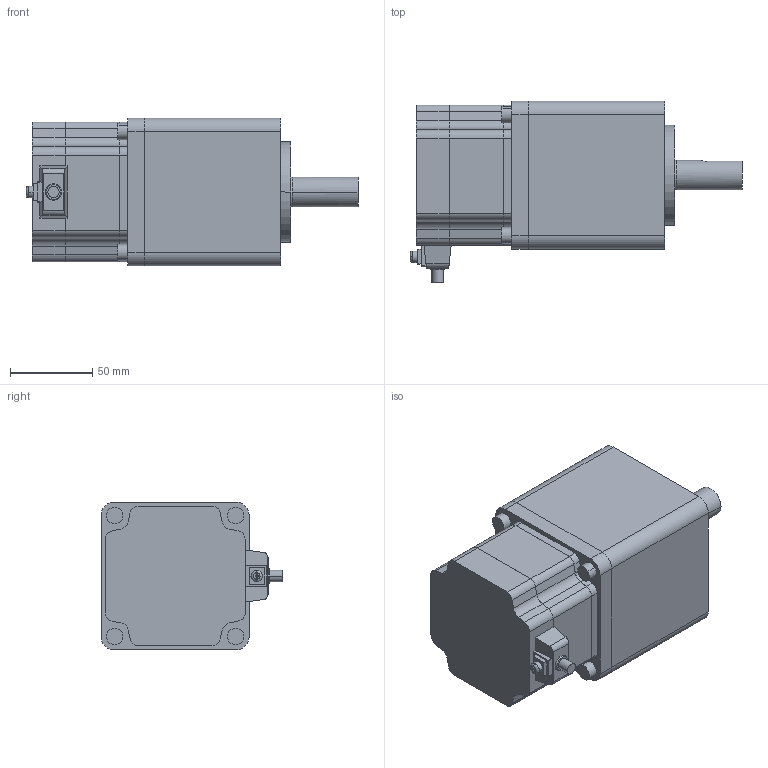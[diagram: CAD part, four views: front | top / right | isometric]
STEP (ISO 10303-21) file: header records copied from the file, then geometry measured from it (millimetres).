
FILE_DESCRIPTION( ( '' ), '1' );
FILE_NAME( 'c:/cad_url_generator/oriental/selction_from_product_tree/stepping_motors/5_phase_stepping_mu/5_phase_rk_series/pn_geared_type_asmtab/RK596ACE-N25.STEP', '2012-06-14T17:56:16', ( '' ), ( '' ), ' ', ' ', ' ' );
FILE_SCHEMA( ( 'CONFIG_CONTROL_DESIGN' ) );
Length unit declared in the file: millimetre
Products named in the file (2): 1; 2
Bounding box: 201.9 x 110.5 x 90 mm (x, y, z)
Volume: 1150801.6 mm3; surface area: 89611.1 mm2
Topology: 2 solids, 2 shells, 243 faces, 651 edges, 423 vertices
Faces by surface type: plane 118, cylinder 103, cone 20, torus 2
Entity records: 7715 total; most frequent: CARTESIAN_POINT 1381, DIRECTION 1351, ORIENTED_EDGE 1286, EDGE_CURVE 643, AXIS2_PLACEMENT_3D 469, VERTEX_POINT 423, LINE 413, VECTOR 413
